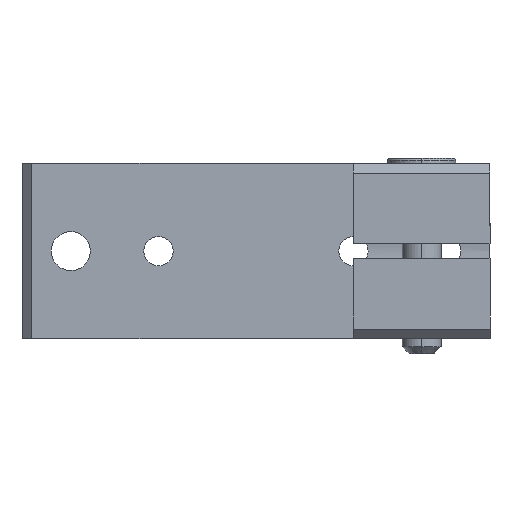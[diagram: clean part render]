
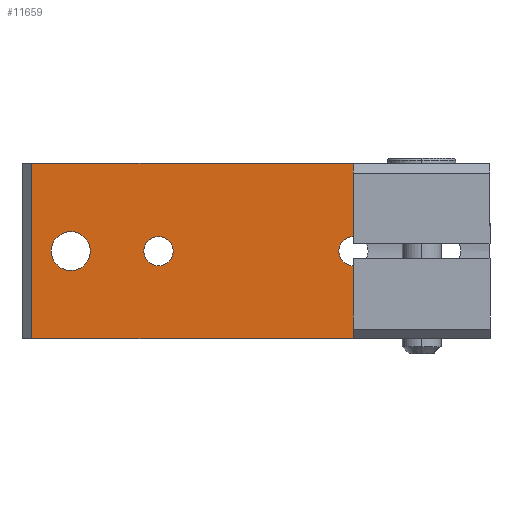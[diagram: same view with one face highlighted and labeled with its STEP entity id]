
A CAD part, front view. The second image highlights one B-rep face of the part: STEP entity #11659.
In plain terms, the highlighted planar face has unit normal (0, -1, 0).
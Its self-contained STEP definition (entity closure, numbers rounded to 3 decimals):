
#156 = VERTEX_POINT ( 'NONE', #10765 ) ;
#337 = ORIENTED_EDGE ( 'NONE', *, *, #3540, .T. ) ;
#477 = VERTEX_POINT ( 'NONE', #2520 ) ;
#669 = DIRECTION ( 'NONE',  ( 0., -1., 0. ) ) ;
#772 = VERTEX_POINT ( 'NONE', #8646 ) ;
#816 = AXIS2_PLACEMENT_3D ( 'NONE', #12164, #8274, #8351 ) ;
#913 = VECTOR ( 'NONE', #6565, 1000. ) ;
#972 = CIRCLE ( 'NONE', #816, 1.5 ) ;
#982 = EDGE_CURVE ( 'NONE', #10996, #1790, #11991, .T. ) ;
#1178 = EDGE_CURVE ( 'NONE', #3173, #2842, #10641, .T. ) ;
#1347 = CARTESIAN_POINT ( 'NONE',  ( 16.77, 42.72, 9. ) ) ;
#1502 = ORIENTED_EDGE ( 'NONE', *, *, #3606, .F. ) ;
#1543 = DIRECTION ( 'NONE',  ( 0., 0., 1. ) ) ;
#1769 = CARTESIAN_POINT ( 'NONE',  ( -16.23, 42.72, -9. ) ) ;
#1790 = VERTEX_POINT ( 'NONE', #8639 ) ;
#1925 = CARTESIAN_POINT ( 'NONE',  ( 6.77, 42.72, 9. ) ) ;
#1968 = CARTESIAN_POINT ( 'NONE',  ( 0.27, 42.72, -9. ) ) ;
#2117 = DIRECTION ( 'NONE',  ( 0., -1., 0. ) ) ;
#2196 = DIRECTION ( 'NONE',  ( -1., 0., 0. ) ) ;
#2206 = LINE ( 'NONE', #1925, #913 ) ;
#2239 = CARTESIAN_POINT ( 'NONE',  ( -3.23, 42.72, 0. ) ) ;
#2432 = ORIENTED_EDGE ( 'NONE', *, *, #7377, .F. ) ;
#2520 = CARTESIAN_POINT ( 'NONE',  ( 16.77, 42.72, 1.5 ) ) ;
#2582 = LINE ( 'NONE', #2999, #9924 ) ;
#2583 = EDGE_CURVE ( 'NONE', #11211, #3041, #11609, .T. ) ;
#2842 = VERTEX_POINT ( 'NONE', #1769 ) ;
#2875 = VECTOR ( 'NONE', #2196, 1000. ) ;
#2894 = EDGE_CURVE ( 'NONE', #477, #10996, #11511, .T. ) ;
#2999 = CARTESIAN_POINT ( 'NONE',  ( 16.77, 42.72, 0. ) ) ;
#3041 = VERTEX_POINT ( 'NONE', #4993 ) ;
#3056 = CARTESIAN_POINT ( 'NONE',  ( 16.77, 42.72, 4.875 ) ) ;
#3135 = FACE_BOUND ( 'NONE', #9788, .T. ) ;
#3173 = VERTEX_POINT ( 'NONE', #10729 ) ;
#3337 = LINE ( 'NONE', #3056, #8014 ) ;
#3540 = EDGE_CURVE ( 'NONE', #3633, #156, #2206, .T. ) ;
#3576 = FACE_BOUND ( 'NONE', #11440, .T. ) ;
#3606 = EDGE_CURVE ( 'NONE', #4695, #772, #7604, .T. ) ;
#3633 = VERTEX_POINT ( 'NONE', #1347 ) ;
#3748 = AXIS2_PLACEMENT_3D ( 'NONE', #9983, #6232, #1543 ) ;
#3770 = DIRECTION ( 'NONE',  ( 0., 1., 0. ) ) ;
#4180 = CARTESIAN_POINT ( 'NONE',  ( -12.23, 42.72, 2. ) ) ;
#4182 = DIRECTION ( 'NONE',  ( 0., 0., 1. ) ) ;
#4695 = VERTEX_POINT ( 'NONE', #11213 ) ;
#4779 = AXIS2_PLACEMENT_3D ( 'NONE', #10897, #669, #8145 ) ;
#4811 = EDGE_CURVE ( 'NONE', #2842, #156, #7737, .T. ) ;
#4993 = CARTESIAN_POINT ( 'NONE',  ( -12.23, 42.72, -2. ) ) ;
#4996 = DIRECTION ( 'NONE',  ( 0., -1., 0. ) ) ;
#5017 = CIRCLE ( 'NONE', #7870, 2. ) ;
#5567 = AXIS2_PLACEMENT_3D ( 'NONE', #8389, #11319, #10329 ) ;
#5799 = DIRECTION ( 'NONE',  ( 0., 0., 1. ) ) ;
#5841 = DIRECTION ( 'NONE',  ( 0., 0., 1. ) ) ;
#5856 = CARTESIAN_POINT ( 'NONE',  ( -12.23, 42.72, 0. ) ) ;
#5973 = ORIENTED_EDGE ( 'NONE', *, *, #982, .F. ) ;
#6232 = DIRECTION ( 'NONE',  ( 0., -1., 0. ) ) ;
#6565 = DIRECTION ( 'NONE',  ( -1., 0., 0. ) ) ;
#6594 = ORIENTED_EDGE ( 'NONE', *, *, #2894, .F. ) ;
#6981 = CARTESIAN_POINT ( 'NONE',  ( -16.23, 42.72, 0. ) ) ;
#7377 = EDGE_CURVE ( 'NONE', #3041, #11211, #5017, .T. ) ;
#7461 = ORIENTED_EDGE ( 'NONE', *, *, #1178, .F. ) ;
#7583 = VECTOR ( 'NONE', #4182, 1000. ) ;
#7597 = EDGE_LOOP ( 'NONE', ( #10147, #7461, #10710, #5973, #6594, #10644, #337 ) ) ;
#7604 = CIRCLE ( 'NONE', #8463, 1.5 ) ;
#7645 = DIRECTION ( 'NONE',  ( 0., 0., -1. ) ) ;
#7737 = LINE ( 'NONE', #6981, #7583 ) ;
#7870 = AXIS2_PLACEMENT_3D ( 'NONE', #5856, #4996, #11402 ) ;
#8014 = VECTOR ( 'NONE', #5799, 1000. ) ;
#8145 = DIRECTION ( 'NONE',  ( 0., 0., 1. ) ) ;
#8274 = DIRECTION ( 'NONE',  ( 0., -1., 0. ) ) ;
#8351 = DIRECTION ( 'NONE',  ( 0., 0., 1. ) ) ;
#8389 = CARTESIAN_POINT ( 'NONE',  ( 16.77, 42.72, 0. ) ) ;
#8433 = PLANE ( 'NONE',  #12137 ) ;
#8463 = AXIS2_PLACEMENT_3D ( 'NONE', #2239, #2117, #5841 ) ;
#8639 = CARTESIAN_POINT ( 'NONE',  ( 16.77, 42.72, -1.5 ) ) ;
#8646 = CARTESIAN_POINT ( 'NONE',  ( -3.23, 42.72, 1.5 ) ) ;
#9131 = EDGE_CURVE ( 'NONE', #1790, #3173, #2582, .T. ) ;
#9394 = ORIENTED_EDGE ( 'NONE', *, *, #11467, .F. ) ;
#9401 = CARTESIAN_POINT ( 'NONE',  ( -16.23, 42.72, -9. ) ) ;
#9788 = EDGE_LOOP ( 'NONE', ( #9394, #1502 ) ) ;
#9924 = VECTOR ( 'NONE', #7645, 1000. ) ;
#9983 = CARTESIAN_POINT ( 'NONE',  ( -12.23, 42.72, 0. ) ) ;
#10147 = ORIENTED_EDGE ( 'NONE', *, *, #4811, .F. ) ;
#10329 = DIRECTION ( 'NONE',  ( 0., 0., 1. ) ) ;
#10520 = EDGE_CURVE ( 'NONE', #477, #3633, #3337, .T. ) ;
#10567 = DIRECTION ( 'NONE',  ( 0., 0., 1. ) ) ;
#10641 = LINE ( 'NONE', #1968, #2875 ) ;
#10644 = ORIENTED_EDGE ( 'NONE', *, *, #10520, .T. ) ;
#10710 = ORIENTED_EDGE ( 'NONE', *, *, #9131, .F. ) ;
#10729 = CARTESIAN_POINT ( 'NONE',  ( 16.77, 42.72, -9. ) ) ;
#10765 = CARTESIAN_POINT ( 'NONE',  ( -16.23, 42.72, 9. ) ) ;
#10897 = CARTESIAN_POINT ( 'NONE',  ( 16.77, 42.72, 0. ) ) ;
#10996 = VERTEX_POINT ( 'NONE', #11077 ) ;
#11077 = CARTESIAN_POINT ( 'NONE',  ( 15.27, 42.72, 0. ) ) ;
#11211 = VERTEX_POINT ( 'NONE', #4180 ) ;
#11213 = CARTESIAN_POINT ( 'NONE',  ( -3.23, 42.72, -1.5 ) ) ;
#11319 = DIRECTION ( 'NONE',  ( 0., -1., 0. ) ) ;
#11402 = DIRECTION ( 'NONE',  ( 0., 0., 1. ) ) ;
#11440 = EDGE_LOOP ( 'NONE', ( #11781, #2432 ) ) ;
#11467 = EDGE_CURVE ( 'NONE', #772, #4695, #972, .T. ) ;
#11511 = CIRCLE ( 'NONE', #5567, 1.5 ) ;
#11609 = CIRCLE ( 'NONE', #3748, 2. ) ;
#11659 = ADVANCED_FACE ( 'NONE', ( #3576, #3135, #11808 ), #8433, .F. ) ;
#11781 = ORIENTED_EDGE ( 'NONE', *, *, #2583, .F. ) ;
#11808 = FACE_OUTER_BOUND ( 'NONE', #7597, .T. ) ;
#11991 = CIRCLE ( 'NONE', #4779, 1.5 ) ;
#12137 = AXIS2_PLACEMENT_3D ( 'NONE', #9401, #3770, #10567 ) ;
#12164 = CARTESIAN_POINT ( 'NONE',  ( -3.23, 42.72, 0. ) ) ;
